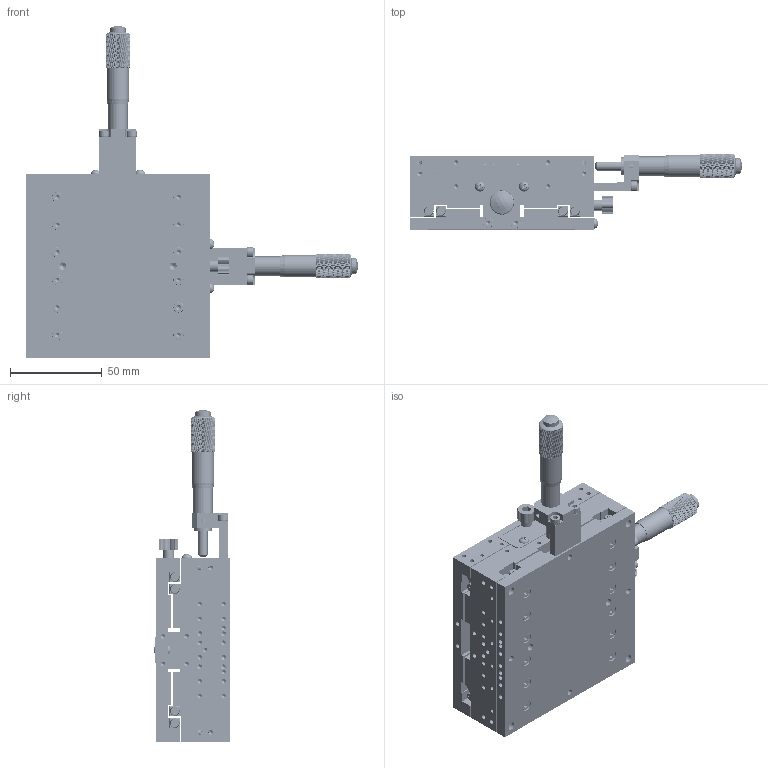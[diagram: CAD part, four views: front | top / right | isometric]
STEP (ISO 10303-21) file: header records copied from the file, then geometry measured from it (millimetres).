
FILE_DESCRIPTION (( 'STEP AP203' ), '1' );
FILE_NAME ('JCXY-100C-25.STEP', '2013-12-24T04:35:35', ( 'MMO' ), ( '' ), 'SwSTEP 2.0', 'SolidWorks 2013', '' );
FILE_SCHEMA (( 'CONFIG_CONTROL_DESIGN' ));
Length unit declared in the file: millimetre
Products named in the file (13): round cross head screw_ks_KS 1023 RC - M3 x 5-N; JCX-100-01-01; JCX-100C-25; JCX-100-02-01; JCX-100CL-25; JV2-90-16; socket head cap screw_ks_KS 1003 - M4 x 6 x 6-N; JCX-80-10-01; JCXY-100C-25; JCX-60-18T-006; socket head cap screw_ks_KS 1003 - M3 x 5 x 5-N; JCX-60-18T-007-002; JALB-73-RS
Assembly tree (82 placements, depth 3):
  JCXY-100C-25
    JCX-100C-25
      JCX-100-01-01
      JCX-100-02-01
      JV2-90-16  x4
      JCX-80-10-01
      JCX-60-18T-006
      socket head cap screw_ks_KS 1003 - M3 x 5 x 5-N  x26
      JCX-60-18T-007-002
      JALB-73-RS
      round cross head screw_ks_KS 1023 RC - M3 x 5-N  x2
    JCX-100CL-25
      JCX-100-01-01
      JCX-100-02-01
      JV2-90-16  x4
      socket head cap screw_ks_KS 1003 - M3 x 5 x 5-N  x26
      JCX-60-18T-007-002
      JALB-73-RS
      JCX-80-10-01
      round cross head screw_ks_KS 1023 RC - M3 x 5-N  x2
      JCX-60-18T-006
    socket head cap screw_ks_KS 1003 - M4 x 6 x 6-N  x4
Bounding box: 180.7 x 41.3 x 180.7 mm (x, y, z)
Volume: 358950.2 mm3; surface area: 161065.6 mm2
Topology: 80 solids, 80 shells, 6834 faces, 15768 edges, 9088 vertices
Faces by surface type: cylinder 2228, bspline 1920, plane 1730, cone 584, torus 352, sphere 20
Entity records: 85651 total; most frequent: CARTESIAN_POINT 42927, ORIENTED_EDGE 10004, DIRECTION 6242, EDGE_CURVE 5002, VERTEX_POINT 2933, AXIS2_PLACEMENT_3D 2558, EDGE_LOOP 2471, ADVANCED_FACE 2201
